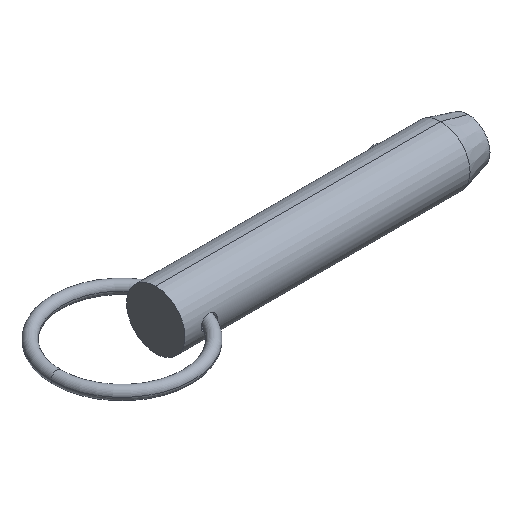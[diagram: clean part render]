
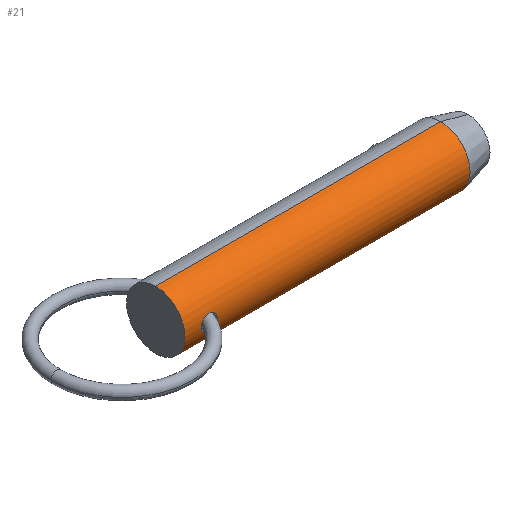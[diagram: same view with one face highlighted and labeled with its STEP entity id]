
A CAD part, isometric view. The second image highlights one B-rep face of the part: STEP entity #21.
In plain terms, the highlighted cylindrical face has radius 7.11 mm (diameter 14.22 mm), a partial arc.
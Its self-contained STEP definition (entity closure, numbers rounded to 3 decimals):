
#2 = VECTOR ( 'NONE', #553, 1000. ) ;
#12 = EDGE_CURVE ( 'NONE', #74, #137, #85, .T. ) ;
#16 = VERTEX_POINT ( 'NONE', #707 ) ;
#21 = ADVANCED_FACE ( 'NONE', ( #296, #88 ), #156, .T. ) ;
#24 = CARTESIAN_POINT ( 'NONE',  ( 5.727, -6.89, 1.755 ) ) ;
#29 = DIRECTION ( 'NONE',  ( 0., 0., -1. ) ) ;
#55 = ORIENTED_EDGE ( 'NONE', *, *, #454, .T. ) ;
#57 = CARTESIAN_POINT ( 'NONE',  ( 4.186, -7.064, -0.815 ) ) ;
#73 = CARTESIAN_POINT ( 'NONE',  ( 5.019, -6.942, 1.541 ) ) ;
#74 = VERTEX_POINT ( 'NONE', #77 ) ;
#77 = CARTESIAN_POINT ( 'NONE',  ( 0., 0., 7.11 ) ) ;
#78 = VERTEX_POINT ( 'NONE', #353 ) ;
#85 = LINE ( 'NONE', #153, #834 ) ;
#88 = FACE_BOUND ( 'NONE', #404, .T. ) ;
#113 = CARTESIAN_POINT ( 'NONE',  ( 4.701, -6.983, -1.341 ) ) ;
#118 = CARTESIAN_POINT ( 'NONE',  ( 5.019, -6.944, -1.531 ) ) ;
#129 = CARTESIAN_POINT ( 'NONE',  ( 7.907, -7.107, -0.247 ) ) ;
#131 = ORIENTED_EDGE ( 'NONE', *, *, #857, .T. ) ;
#134 = DIRECTION ( 'NONE',  ( 0., 0., -1. ) ) ;
#137 = VERTEX_POINT ( 'NONE', #577 ) ;
#145 = CARTESIAN_POINT ( 'NONE',  ( 69.536, 0., -7.11 ) ) ;
#153 = CARTESIAN_POINT ( 'NONE',  ( 0., 0., 7.11 ) ) ;
#155 = CARTESIAN_POINT ( 'NONE',  ( 7.147, -6.957, 1.468 ) ) ;
#156 = CYLINDRICAL_SURFACE ( 'NONE', #611, 7.11 ) ;
#164 = CIRCLE ( 'NONE', #678, 7.11 ) ;
#184 = CARTESIAN_POINT ( 'NONE',  ( 5.723, -6.89, -1.754 ) ) ;
#187 = CARTESIAN_POINT ( 'NONE',  ( 5.361, -6.912, -1.669 ) ) ;
#191 = CARTESIAN_POINT ( 'NONE',  ( 6.218, -6.882, -1.786 ) ) ;
#194 = CIRCLE ( 'NONE', #448, 7.11 ) ;
#196 = CARTESIAN_POINT ( 'NONE',  ( 3.936, -7.11, -0.248 ) ) ;
#201 = CARTESIAN_POINT ( 'NONE',  ( 0., 0., -7.11 ) ) ;
#203 = ORIENTED_EDGE ( 'NONE', *, *, #464, .F. ) ;
#205 = CARTESIAN_POINT ( 'NONE',  ( 4.424, -7.024, 1.106 ) ) ;
#217 = CARTESIAN_POINT ( 'NONE',  ( 7.718, -7.062, 0.836 ) ) ;
#219 = CARTESIAN_POINT ( 'NONE',  ( 7.92, -7.11, 0. ) ) ;
#225 = CARTESIAN_POINT ( 'NONE',  ( 5.485, -6.903, 1.705 ) ) ;
#266 = DIRECTION ( 'NONE',  ( 1., 0., 0. ) ) ;
#273 = CARTESIAN_POINT ( 'NONE',  ( 6.467, -6.89, -1.756 ) ) ;
#283 = CARTESIAN_POINT ( 'NONE',  ( 7.429, -7.003, 1.234 ) ) ;
#289 = CARTESIAN_POINT ( 'NONE',  ( 4.188, -7.064, 0.819 ) ) ;
#292 = CARTESIAN_POINT ( 'NONE',  ( 7.513, -7.019, 1.141 ) ) ;
#296 = FACE_OUTER_BOUND ( 'NONE', #676, .T. ) ;
#333 = CARTESIAN_POINT ( 'NONE',  ( 3.936, -7.11, 0. ) ) ;
#352 = CARTESIAN_POINT ( 'NONE',  ( 5.849, -6.886, 1.77 ) ) ;
#353 = CARTESIAN_POINT ( 'NONE',  ( 7.92, -7.11, 0. ) ) ;
#366 = ORIENTED_EDGE ( 'NONE', *, *, #482, .T. ) ;
#396 = CARTESIAN_POINT ( 'NONE',  ( 4.509, -7.011, -1.187 ) ) ;
#404 = EDGE_LOOP ( 'NONE', ( #131, #55 ) ) ;
#411 = CARTESIAN_POINT ( 'NONE',  ( 4.421, -7.025, -1.103 ) ) ;
#415 = CARTESIAN_POINT ( 'NONE',  ( 7.819, -7.085, -0.608 ) ) ;
#424 = DIRECTION ( 'NONE',  ( 1., 0., 0. ) ) ;
#431 = CARTESIAN_POINT ( 'NONE',  ( 4.513, -7.01, 1.19 ) ) ;
#440 = CARTESIAN_POINT ( 'NONE',  ( 7.657, -7.048, 0.943 ) ) ;
#448 = AXIS2_PLACEMENT_3D ( 'NONE', #619, #266, #134 ) ;
#454 = EDGE_CURVE ( 'NONE', #78, #828, #576, .T. ) ;
#464 = EDGE_CURVE ( 'NONE', #137, #813, #194, .T. ) ;
#469 = CARTESIAN_POINT ( 'NONE',  ( 4.805, -6.969, -1.41 ) ) ;
#472 = CARTESIAN_POINT ( 'NONE',  ( 7.92, -7.11, 0. ) ) ;
#474 = ORIENTED_EDGE ( 'NONE', *, *, #12, .F. ) ;
#476 = CARTESIAN_POINT ( 'NONE',  ( 5.13, -6.932, -1.582 ) ) ;
#482 = EDGE_CURVE ( 'NONE', #16, #813, #886, .T. ) ;
#488 = CARTESIAN_POINT ( 'NONE',  ( 6.933, -6.93, -1.59 ) ) ;
#493 = CARTESIAN_POINT ( 'NONE',  ( 7.92, -7.11, 0.248 ) ) ;
#505 = CARTESIAN_POINT ( 'NONE',  ( 7.869, -7.096, 0.496 ) ) ;
#514 = CARTESIAN_POINT ( 'NONE',  ( 6.217, -6.882, 1.786 ) ) ;
#533 = DIRECTION ( 'NONE',  ( 1., 0., 0. ) ) ;
#538 = CARTESIAN_POINT ( 'NONE',  ( 7.92, -7.11, -0.124 ) ) ;
#544 = CARTESIAN_POINT ( 'NONE',  ( 6.821, -6.918, -1.64 ) ) ;
#553 = DIRECTION ( 'NONE',  ( 1., 0., 0. ) ) ;
#556 = ORIENTED_EDGE ( 'NONE', *, *, #690, .T. ) ;
#569 = CARTESIAN_POINT ( 'NONE',  ( 3.936, -7.11, 0. ) ) ;
#575 = CARTESIAN_POINT ( 'NONE',  ( 4.261, -7.051, 0.92 ) ) ;
#576 = B_SPLINE_CURVE_WITH_KNOTS ( 'NONE', 3,
 ( #472, #538, #129, #807, #415, #693, #880, #623, #680, #488, #544, #273, #191, #810, #184, #627, #187, #476, #118, #469, #113, #396, #411, #745, #57, #759, #196, #333 ),
 .UNSPECIFIED., .F., .F.,
 ( 4, 2, 2, 2, 2, 2, 2, 2, 2, 2, 2, 2, 2, 4 ),
 ( 0.006, 0.007, 0.007, 0.008, 0.008, 0.009, 0.009, 0.01, 0.01, 0.01, 0.011, 0.011, 0.011, 0.012 ),
 .UNSPECIFIED. ) ;
#577 = CARTESIAN_POINT ( 'NONE',  ( 69.536, 0., 7.11 ) ) ;
#579 = CARTESIAN_POINT ( 'NONE',  ( 3.936, -7.11, 0. ) ) ;
#611 = AXIS2_PLACEMENT_3D ( 'NONE', #764, #424, #29 ) ;
#619 = CARTESIAN_POINT ( 'NONE',  ( 69.536, 0., 0. ) ) ;
#623 = CARTESIAN_POINT ( 'NONE',  ( 7.248, -6.972, -1.395 ) ) ;
#627 = CARTESIAN_POINT ( 'NONE',  ( 5.481, -6.903, -1.704 ) ) ;
#632 = CARTESIAN_POINT ( 'NONE',  ( 7.246, -6.972, 1.397 ) ) ;
#676 = EDGE_LOOP ( 'NONE', ( #474, #556, #366, #203 ) ) ;
#678 = AXIS2_PLACEMENT_3D ( 'NONE', #786, #533, #801 ) ;
#680 = CARTESIAN_POINT ( 'NONE',  ( 7.147, -6.957, -1.468 ) ) ;
#690 = EDGE_CURVE ( 'NONE', #74, #16, #164, .T. ) ;
#693 = CARTESIAN_POINT ( 'NONE',  ( 7.67, -7.05, -0.946 ) ) ;
#706 = CARTESIAN_POINT ( 'NONE',  ( 6.818, -6.918, 1.641 ) ) ;
#707 = CARTESIAN_POINT ( 'NONE',  ( 0., 0., -7.11 ) ) ;
#714 = DIRECTION ( 'NONE',  ( 1., 0., 0. ) ) ;
#739 = B_SPLINE_CURVE_WITH_KNOTS ( 'NONE', 3,
 ( #579, #774, #848, #289, #575, #205, #431, #830, #73, #836, #225, #24, #352, #514, #844, #706, #779, #155, #632, #283, #292, #440, #217, #505, #493, #219 ),
 .UNSPECIFIED., .F., .F.,
 ( 4, 2, 2, 2, 2, 2, 2, 2, 2, 2, 2, 2, 4 ),
 ( 0., 0.001, 0.001, 0.002, 0.003, 0.003, 0.003, 0.004, 0.004, 0.005, 0.005, 0.006, 0.006 ),
 .UNSPECIFIED. ) ;
#745 = CARTESIAN_POINT ( 'NONE',  ( 4.259, -7.051, -0.917 ) ) ;
#759 = CARTESIAN_POINT ( 'NONE',  ( 4.007, -7.096, -0.494 ) ) ;
#764 = CARTESIAN_POINT ( 'NONE',  ( 0., 0., 0. ) ) ;
#774 = CARTESIAN_POINT ( 'NONE',  ( 3.936, -7.11, 0.248 ) ) ;
#779 = CARTESIAN_POINT ( 'NONE',  ( 6.932, -6.93, 1.591 ) ) ;
#786 = CARTESIAN_POINT ( 'NONE',  ( 0., 0., 0. ) ) ;
#801 = DIRECTION ( 'NONE',  ( 0., 0., -1. ) ) ;
#807 = CARTESIAN_POINT ( 'NONE',  ( 7.857, -7.094, -0.489 ) ) ;
#810 = CARTESIAN_POINT ( 'NONE',  ( 5.846, -6.886, -1.77 ) ) ;
#813 = VERTEX_POINT ( 'NONE', #145 ) ;
#828 = VERTEX_POINT ( 'NONE', #569 ) ;
#830 = CARTESIAN_POINT ( 'NONE',  ( 4.8, -6.969, 1.419 ) ) ;
#834 = VECTOR ( 'NONE', #714, 1000. ) ;
#836 = CARTESIAN_POINT ( 'NONE',  ( 5.365, -6.911, 1.67 ) ) ;
#844 = CARTESIAN_POINT ( 'NONE',  ( 6.469, -6.89, 1.755 ) ) ;
#848 = CARTESIAN_POINT ( 'NONE',  ( 4.007, -7.096, 0.495 ) ) ;
#857 = EDGE_CURVE ( 'NONE', #828, #78, #739, .T. ) ;
#880 = CARTESIAN_POINT ( 'NONE',  ( 7.522, -7.018, -1.15 ) ) ;
#886 = LINE ( 'NONE', #201, #2 ) ;
